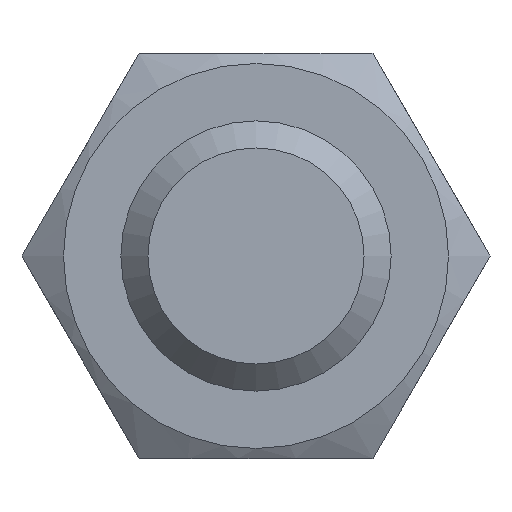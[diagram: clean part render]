
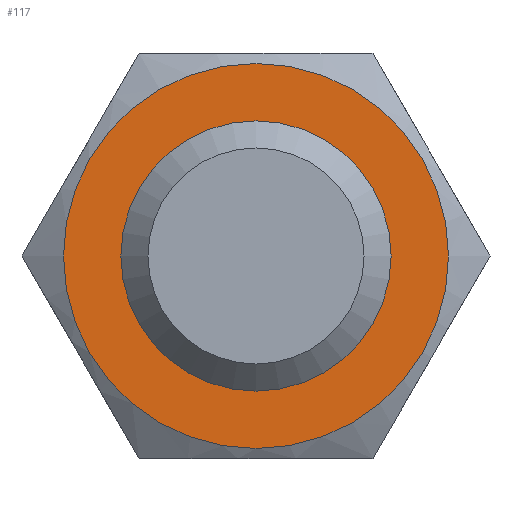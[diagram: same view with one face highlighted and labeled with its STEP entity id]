
A CAD part, left-side view. The second image highlights one B-rep face of the part: STEP entity #117.
In plain terms, the highlighted planar face has unit normal (-1, 0, 0).
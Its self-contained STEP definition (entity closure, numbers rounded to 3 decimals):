
#117=ADVANCED_FACE('',(#468,#470),#472,.T.);
#468=FACE_BOUND('',#469,.T.);
#469=EDGE_LOOP('',(#756));
#470=FACE_BOUND('',#471,.T.);
#471=EDGE_LOOP('',(#757));
#472=PLANE('',#473);
#473=AXIS2_PLACEMENT_3D('',#474,#475,#476);
#474=CARTESIAN_POINT('',(-50.5,0.,0.));
#475=DIRECTION('',(-1.,0.,0.));
#476=DIRECTION('',(0.,0.,1.));
#756=ORIENTED_EDGE('',*,*,#918,.T.);
#757=ORIENTED_EDGE('',*,*,#915,.T.);
#915=EDGE_CURVE('',#998,#998,#999,.F.);
#918=EDGE_CURVE('',#1004,#1004,#1005,.F.);
#998=VERTEX_POINT('',#1143);
#999=CIRCLE('',#1144,10.);
#1004=VERTEX_POINT('',#1158);
#1005=CIRCLE('',#1159,14.25);
#1143=CARTESIAN_POINT('',(-50.5,10.,0.));
#1144=AXIS2_PLACEMENT_3D('',#1145,#1146,#1147);
#1145=CARTESIAN_POINT('',(-50.5,0.,0.));
#1146=DIRECTION('',(-1.,0.,0.));
#1147=DIRECTION('',(0.,1.,0.));
#1158=CARTESIAN_POINT('',(-50.5,-12.341,-7.125));
#1159=AXIS2_PLACEMENT_3D('',#1160,#1161,#1162);
#1160=CARTESIAN_POINT('',(-50.5,0.,0.));
#1161=DIRECTION('',(1.,0.,0.));
#1162=DIRECTION('',(0.,1.,0.));
